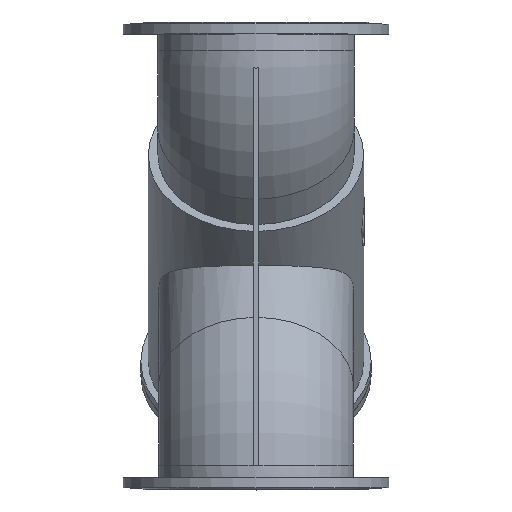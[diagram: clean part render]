
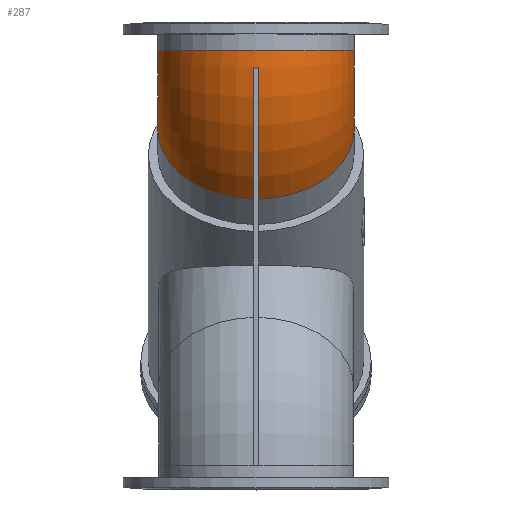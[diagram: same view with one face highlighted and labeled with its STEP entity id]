
A CAD part, top view. The second image highlights one B-rep face of the part: STEP entity #287.
In plain terms, the highlighted toroidal (fillet/blend) face has major radius 300 mm and minor radius 262 mm.
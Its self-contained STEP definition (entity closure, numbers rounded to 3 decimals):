
#287=ADVANCED_FACE('',(#1122,#1124),#1126,.T.);
#1122=FACE_BOUND('',#1123,.T.);
#1123=EDGE_LOOP('',(#2043,#2044,#2045,#2046,#2047));
#1124=FACE_OUTER_BOUND('',#1125,.T.);
#1125=EDGE_LOOP('',(#2048));
#1126=TOROIDAL_SURFACE('',#1127,300.,262.);
#1127=AXIS2_PLACEMENT_3D('',#1128,#1129,#1130);
#1128=CARTESIAN_POINT('',(0.,549.264,-300.));
#1129=DIRECTION('',(1.,0.,0.));
#1130=DIRECTION('',(0.,0.,1.));
#2043=ORIENTED_EDGE('',*,*,#2332,.F.);
#2044=ORIENTED_EDGE('',*,*,#2344,.F.);
#2045=ORIENTED_EDGE('',*,*,#2323,.F.);
#2046=ORIENTED_EDGE('',*,*,#2342,.F.);
#2047=ORIENTED_EDGE('',*,*,#2341,.F.);
#2048=ORIENTED_EDGE('',*,*,#2345,.T.);
#2323=EDGE_CURVE('',#2539,#2541,#2542,.T.);
#2332=EDGE_CURVE('',#2555,#2557,#2558,.F.);
#2341=EDGE_CURVE('',#2557,#2571,#2572,.F.);
#2342=EDGE_CURVE('',#2571,#2539,#2573,.T.);
#2344=EDGE_CURVE('',#2541,#2555,#2575,.T.);
#2345=EDGE_CURVE('',#2576,#2576,#2577,.T.);
#2539=VERTEX_POINT('',#3803);
#2541=VERTEX_POINT('',#3807);
#2542=CIRCLE('',#3808,561.893);
#2555=VERTEX_POINT('',#3841);
#2557=VERTEX_POINT('',#3845);
#2558=CIRCLE('',#3846,561.893);
#2571=VERTEX_POINT('',#3883);
#2572=B_SPLINE_CURVE_WITH_KNOTS('',3,
(#3884,#3885,#3886,#3887,#3888,#3889,#3890,#3891,#3892,#3893,#3894,#3895,#3896,#3897,
#3898,#3899,#3900,#3901,#3902,#3903,#3904,#3905,#3906,#3907,#3908,#3909,#3910,#3911,
#3912,#3913),
.UNSPECIFIED.,.F.,.F.,
(4,1,1,1,1,1,1,1,1,1,1,1,1,1,1,1,1,1,1,1,1,1,1,1,1,1,1,4),
(0.,0.054,0.108,0.161,0.183,0.214,
0.265,0.316,0.365,0.413,0.46,
0.506,0.547,0.55,0.592,0.633,
0.672,0.71,0.746,0.781,0.815,
0.848,0.865,0.88,0.911,0.941,
0.971,1.),
.UNSPECIFIED.);
#2573=B_SPLINE_CURVE_WITH_KNOTS('',3,
(#3914,#3915,#3916,#3917,#3918,#3919,#3920,#3921,#3922,#3923,#3924,#3925,#3926,#3927,
#3928,#3929,#3930,#3931,#3932,#3933,#3934,#3935,#3936,#3937,#3938,#3939,#3940,#3941,
#3942,#3943),
.UNSPECIFIED.,.F.,.F.,
(4,1,1,1,1,1,1,1,1,1,1,1,1,1,1,1,1,1,1,1,1,1,1,1,1,1,1,4),
(0.,0.054,0.108,0.161,0.183,0.214,
0.265,0.316,0.365,0.413,0.46,
0.506,0.547,0.55,0.592,0.633,
0.672,0.71,0.746,0.781,0.815,
0.848,0.865,0.88,0.911,0.941,
0.971,1.),
.UNSPECIFIED.);
#2575=CIRCLE('',#3947,262.);
#2576=VERTEX_POINT('',#3951);
#2577=CIRCLE('',#3952,262.);
#3803=CARTESIAN_POINT('',(-7.5,503.184,260.));
#3807=CARTESIAN_POINT('',(-7.5,151.946,97.318));
#3808=AXIS2_PLACEMENT_3D('',#3809,#3810,#3811);
#3809=CARTESIAN_POINT('',(-7.5,549.264,-300.));
#3810=DIRECTION('',(1.,0.,0.));
#3811=DIRECTION('',(0.,-0.082,0.997));
#3841=CARTESIAN_POINT('',(7.5,151.946,97.318));
#3845=CARTESIAN_POINT('',(7.5,503.184,260.));
#3846=AXIS2_PLACEMENT_3D('',#3847,#3848,#3849);
#3847=CARTESIAN_POINT('',(7.5,549.264,-300.));
#3848=DIRECTION('',(1.,0.,0.));
#3849=DIRECTION('',(0.,-0.082,0.997));
#3883=CARTESIAN_POINT('',(0.,501.893,260.));
#3884=CARTESIAN_POINT('',(0.,501.893,260.));
#3885=CARTESIAN_POINT('',(0.138,501.893,260.));
#3886=CARTESIAN_POINT('',(0.414,501.896,260.));
#3887=CARTESIAN_POINT('',(0.825,501.907,260.));
#3888=CARTESIAN_POINT('',(1.153,501.923,260.));
#3889=CARTESIAN_POINT('',(1.421,501.939,260.));
#3890=CARTESIAN_POINT('',(1.686,501.957,260.));
#3891=CARTESIAN_POINT('',(2.023,501.985,260.));
#3892=CARTESIAN_POINT('',(2.407,502.023,260.));
#3893=CARTESIAN_POINT('',(2.779,502.067,260.));
#3894=CARTESIAN_POINT('',(3.144,502.117,260.));
#3895=CARTESIAN_POINT('',(3.499,502.17,260.));
#3896=CARTESIAN_POINT('',(3.837,502.227,260.));
#3897=CARTESIAN_POINT('',(4.063,502.268,260.));
#3898=CARTESIAN_POINT('',(4.28,502.309,260.));
#3899=CARTESIAN_POINT('',(4.495,502.352,260.));
#3900=CARTESIAN_POINT('',(4.801,502.417,260.));
#3901=CARTESIAN_POINT('',(5.094,502.484,260.));
#3902=CARTESIAN_POINT('',(5.373,502.551,260.));
#3903=CARTESIAN_POINT('',(5.642,502.619,260.));
#3904=CARTESIAN_POINT('',(5.901,502.688,260.));
#3905=CARTESIAN_POINT('',(6.151,502.757,260.));
#3906=CARTESIAN_POINT('',(6.356,502.817,260.));
#3907=CARTESIAN_POINT('',(6.514,502.864,260.));
#3908=CARTESIAN_POINT('',(6.666,502.91,260.));
#3909=CARTESIAN_POINT('',(6.851,502.968,260.));
#3910=CARTESIAN_POINT('',(7.072,503.039,260.));
#3911=CARTESIAN_POINT('',(7.288,503.111,260.));
#3912=CARTESIAN_POINT('',(7.43,503.16,260.));
#3913=CARTESIAN_POINT('',(7.5,503.184,260.));
#3914=CARTESIAN_POINT('',(0.,501.893,260.));
#3915=CARTESIAN_POINT('',(-0.138,501.893,260.));
#3916=CARTESIAN_POINT('',(-0.414,501.896,260.));
#3917=CARTESIAN_POINT('',(-0.825,501.907,260.));
#3918=CARTESIAN_POINT('',(-1.153,501.923,260.));
#3919=CARTESIAN_POINT('',(-1.421,501.939,260.));
#3920=CARTESIAN_POINT('',(-1.686,501.957,260.));
#3921=CARTESIAN_POINT('',(-2.023,501.985,260.));
#3922=CARTESIAN_POINT('',(-2.407,502.023,260.));
#3923=CARTESIAN_POINT('',(-2.779,502.067,260.));
#3924=CARTESIAN_POINT('',(-3.144,502.117,260.));
#3925=CARTESIAN_POINT('',(-3.499,502.17,260.));
#3926=CARTESIAN_POINT('',(-3.837,502.227,260.));
#3927=CARTESIAN_POINT('',(-4.063,502.268,260.));
#3928=CARTESIAN_POINT('',(-4.28,502.309,260.));
#3929=CARTESIAN_POINT('',(-4.495,502.352,260.));
#3930=CARTESIAN_POINT('',(-4.801,502.417,260.));
#3931=CARTESIAN_POINT('',(-5.094,502.484,260.));
#3932=CARTESIAN_POINT('',(-5.373,502.551,260.));
#3933=CARTESIAN_POINT('',(-5.642,502.619,260.));
#3934=CARTESIAN_POINT('',(-5.901,502.688,260.));
#3935=CARTESIAN_POINT('',(-6.151,502.757,260.));
#3936=CARTESIAN_POINT('',(-6.356,502.817,260.));
#3937=CARTESIAN_POINT('',(-6.514,502.864,260.));
#3938=CARTESIAN_POINT('',(-6.666,502.91,260.));
#3939=CARTESIAN_POINT('',(-6.851,502.968,260.));
#3940=CARTESIAN_POINT('',(-7.072,503.039,260.));
#3941=CARTESIAN_POINT('',(-7.288,503.111,260.));
#3942=CARTESIAN_POINT('',(-7.43,503.16,260.));
#3943=CARTESIAN_POINT('',(-7.5,503.184,260.));
#3947=AXIS2_PLACEMENT_3D('',#3948,#3949,#3950);
#3948=CARTESIAN_POINT('',(0.,337.132,-87.868));
#3949=DIRECTION('',(0.,-0.707,-0.707));
#3950=DIRECTION('',(-0.029,-0.707,0.707));
#3951=CARTESIAN_POINT('',(0.,549.264,262.));
#3952=AXIS2_PLACEMENT_3D('',#3953,#3954,#3955);
#3953=CARTESIAN_POINT('',(0.,549.264,0.));
#3954=DIRECTION('',(0.,-1.,0.));
#3955=DIRECTION('',(0.,0.,1.));
